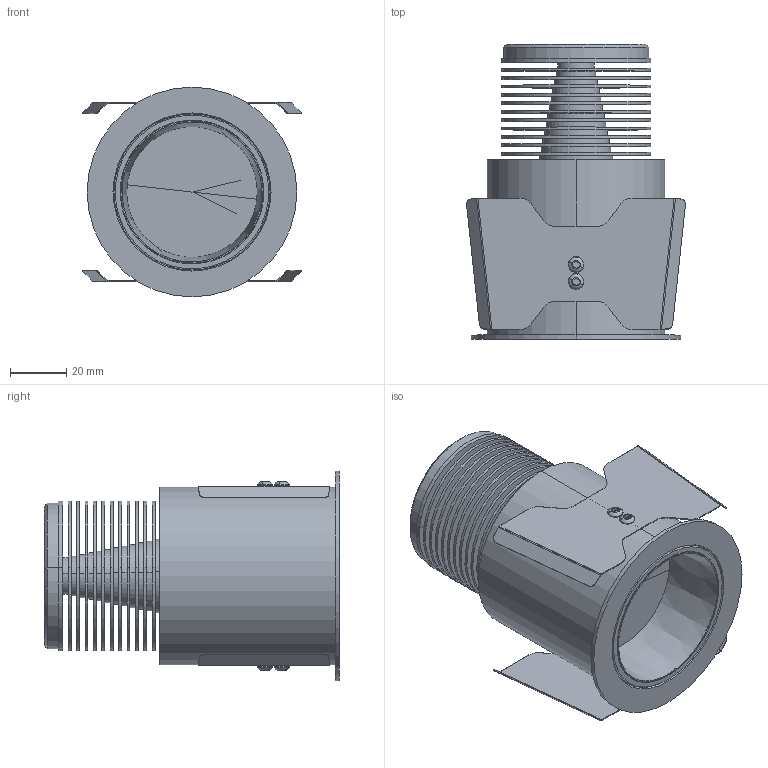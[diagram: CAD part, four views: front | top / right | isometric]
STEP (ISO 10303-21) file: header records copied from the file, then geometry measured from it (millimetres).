
FILE_DESCRIPTION (( 'STEP AP214' ), '1' );
FILE_NAME ('SATURNO Am per BIM.STEP', '2024-02-05T07:19:55', ( '' ), ( '' ), 'SwSTEP 2.0', 'SolidWorks 2023', '' );
FILE_SCHEMA (( 'AUTOMOTIVE_DESIGN' ));
Length unit declared in the file: millimetre
Products named in the file (6): Modulo AF e AM; 105472--; SATURNO Am per BIM; 105473--; Vite M3x4 TBEI; 105297--REV B
Assembly tree (9 placements, depth 2):
  SATURNO Am per BIM
    Modulo AF e AM
    105297--REV B
    105472--
    105473--  x2
    Vite M3x4 TBEI  x4
Bounding box: 78.09 x 105.3 x 74.8 mm (x, y, z)
Volume: 199115.6 mm3; surface area: 123752.6 mm2
Topology: 9 solids, 9 shells, 333 faces, 782 edges, 497 vertices
Faces by surface type: cylinder 150, plane 147, cone 24, torus 8, bspline 4
Entity records: 7052 total; most frequent: CARTESIAN_POINT 1512, DIRECTION 1195, ORIENTED_EDGE 1050, EDGE_CURVE 525, AXIS2_PLACEMENT_3D 474, VERTEX_POINT 339, EDGE_LOOP 272, VECTOR 247
